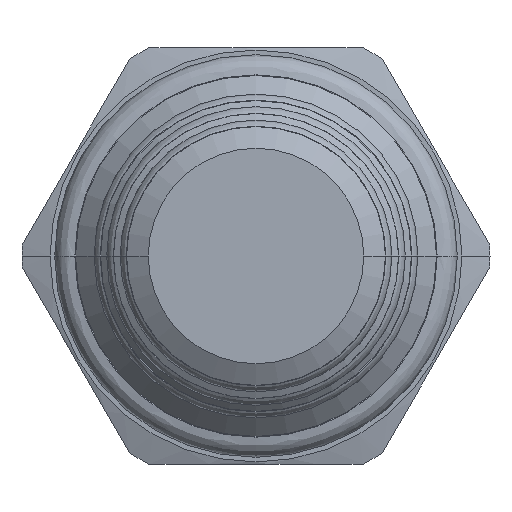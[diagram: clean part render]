
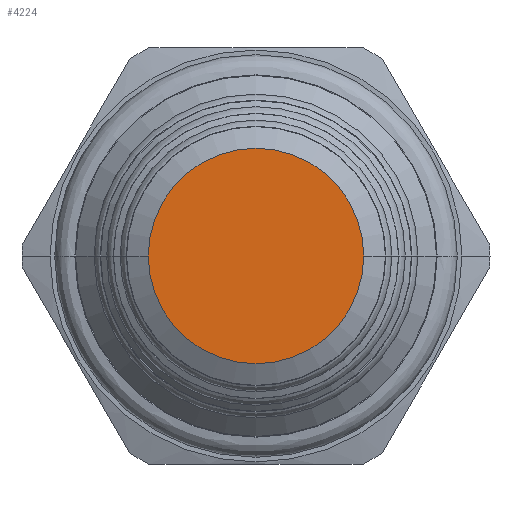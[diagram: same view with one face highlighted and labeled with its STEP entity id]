
A CAD part, front view. The second image highlights one B-rep face of the part: STEP entity #4224.
In plain terms, the highlighted planar face has unit normal (0, -1, 0).
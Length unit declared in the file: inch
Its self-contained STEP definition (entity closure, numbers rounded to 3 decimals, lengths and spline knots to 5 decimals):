
#1427=CARTESIAN_POINT('',(0.,-2.45827,0.));
#1428=DIRECTION('',(0.,1.,0.));
#1429=DIRECTION('',(1.,0.,0.));
#1430=AXIS2_PLACEMENT_3D('',#1427,#1428,#1429);
#1432=CARTESIAN_POINT('',(0.,-2.45827,0.));
#1433=DIRECTION('',(0.,1.,0.));
#1434=DIRECTION('',(-1.,0.,0.));
#1435=AXIS2_PLACEMENT_3D('',#1432,#1433,#1434);
#1901=CARTESIAN_POINT('',(0.25904,-2.45827,0.));
#1902=CARTESIAN_POINT('',(-0.25904,-2.45827,0.));
#1903=VERTEX_POINT('',#1901);
#1904=VERTEX_POINT('',#1902);
#4214=CARTESIAN_POINT('',(0.,-2.45827,0.));
#4215=DIRECTION('',(0.,1.,0.));
#4216=DIRECTION('',(1.,0.,0.));
#4217=AXIS2_PLACEMENT_3D('',#4214,#4215,#4216);
#4218=PLANE('',#4217);
#4219=ORIENTED_EDGE('',*,*,#4204,.T.);
#4221=ORIENTED_EDGE('',*,*,#4220,.T.);
#4222=EDGE_LOOP('',(#4219,#4221));
#4223=FACE_OUTER_BOUND('',#4222,.F.);
#4224=ADVANCED_FACE('',(#4223),#4218,.F.);
#1431=CIRCLE('',#1430,0.25904);
#1436=CIRCLE('',#1435,0.25904);
#4204=EDGE_CURVE('',#1903,#1904,#1431,.T.);
#4220=EDGE_CURVE('',#1904,#1903,#1436,.T.);
